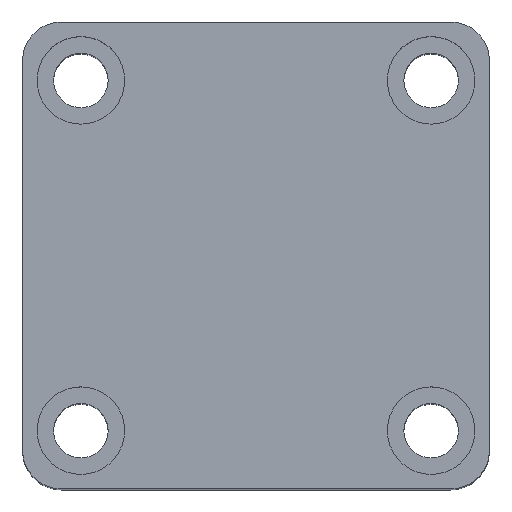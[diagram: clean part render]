
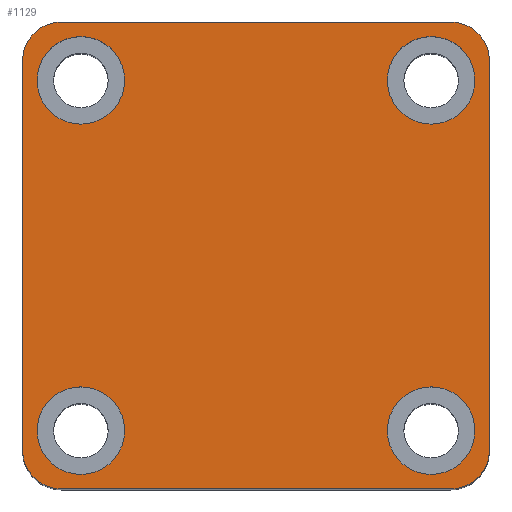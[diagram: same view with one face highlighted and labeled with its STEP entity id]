
A CAD part, top view. The second image highlights one B-rep face of the part: STEP entity #1129.
In plain terms, the highlighted planar face has unit normal (0, 0, 1).
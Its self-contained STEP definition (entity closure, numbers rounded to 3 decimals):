
#281 = ORIENTED_EDGE ( 'NONE', *, *, #2013, .F. ) ;
#282 = ORIENTED_EDGE ( 'NONE', *, *, #1957, .F. ) ;
#283 = ORIENTED_EDGE ( 'NONE', *, *, #2014, .F. ) ;
#284 = ORIENTED_EDGE ( 'NONE', *, *, #1961, .F. ) ;
#285 = ORIENTED_EDGE ( 'NONE', *, *, #2015, .F. ) ;
#286 = ORIENTED_EDGE ( 'NONE', *, *, #1965, .F. ) ;
#287 = ORIENTED_EDGE ( 'NONE', *, *, #2016, .F. ) ;
#288 = ORIENTED_EDGE ( 'NONE', *, *, #1969, .F. ) ;
#289 = ORIENTED_EDGE ( 'NONE', *, *, #2003, .T. ) ;
#290 = ORIENTED_EDGE ( 'NONE', *, *, #2017, .T. ) ;
#291 = ORIENTED_EDGE ( 'NONE', *, *, #2005, .T. ) ;
#292 = ORIENTED_EDGE ( 'NONE', *, *, #2018, .T. ) ;
#293 = ORIENTED_EDGE ( 'NONE', *, *, #2009, .T. ) ;
#294 = ORIENTED_EDGE ( 'NONE', *, *, #2019, .T. ) ;
#295 = ORIENTED_EDGE ( 'NONE', *, *, #1997, .T. ) ;
#296 = ORIENTED_EDGE ( 'NONE', *, *, #1904, .T. ) ;
#484 = FACE_BOUND ( 'NONE', #686, .T. ) ;
#569 = FACE_OUTER_BOUND ( 'NONE', #740, .T. ) ;
#576 = FACE_BOUND ( 'NONE', #751, .T. ) ;
#593 = FACE_BOUND ( 'NONE', #719, .T. ) ;
#597 = FACE_BOUND ( 'NONE', #759, .T. ) ;
#686 = EDGE_LOOP ( 'NONE', ( #287, #288 ) ) ;
#719 = EDGE_LOOP ( 'NONE', ( #285, #286 ) ) ;
#740 = EDGE_LOOP ( 'NONE', ( #289, #290, #291, #292, #293, #294, #295, #296 ) ) ;
#751 = EDGE_LOOP ( 'NONE', ( #281, #282 ) ) ;
#759 = EDGE_LOOP ( 'NONE', ( #283, #284 ) ) ;
#828 = VERTEX_POINT ( 'NONE', #1519 ) ;
#837 = VERTEX_POINT ( 'NONE', #1528 ) ;
#839 = VERTEX_POINT ( 'NONE', #1467 ) ;
#851 = VERTEX_POINT ( 'NONE', #1416 ) ;
#852 = VERTEX_POINT ( 'NONE', #1413 ) ;
#864 = VERTEX_POINT ( 'NONE', #1364 ) ;
#865 = VERTEX_POINT ( 'NONE', #1360 ) ;
#866 = VERTEX_POINT ( 'NONE', #1367 ) ;
#869 = VERTEX_POINT ( 'NONE', #1359 ) ;
#870 = VERTEX_POINT ( 'NONE', #1350 ) ;
#871 = VERTEX_POINT ( 'NONE', #1342 ) ;
#881 = VERTEX_POINT ( 'NONE', #1310 ) ;
#885 = VERTEX_POINT ( 'NONE', #1301 ) ;
#889 = VERTEX_POINT ( 'NONE', #1304 ) ;
#895 = VERTEX_POINT ( 'NONE', #1283 ) ;
#920 = VERTEX_POINT ( 'NONE', #1223 ) ;
#995 = AXIS2_PLACEMENT_3D ( 'NONE', #2443, #2441, #2440 ) ;
#1001 = AXIS2_PLACEMENT_3D ( 'NONE', #2497, #2496, #2495 ) ;
#1016 = AXIS2_PLACEMENT_3D ( 'NONE', #2477, #2476, #2475 ) ;
#1078 = AXIS2_PLACEMENT_3D ( 'NONE', #2481, #2480, #2519 ) ;
#1079 = AXIS2_PLACEMENT_3D ( 'NONE', #2501, #2461, #2460 ) ;
#1080 = AXIS2_PLACEMENT_3D ( 'NONE', #2280, #2269, #2232 ) ;
#1081 = AXIS2_PLACEMENT_3D ( 'NONE', #2294, #2293, #2292 ) ;
#1082 = AXIS2_PLACEMENT_3D ( 'NONE', #2297, #2296, #2295 ) ;
#1084 = AXIS2_PLACEMENT_3D ( 'NONE', #2300, #2340, #2299 ) ;
#1085 = AXIS2_PLACEMENT_3D ( 'NONE', #2303, #2302, #2301 ) ;
#1099 = AXIS2_PLACEMENT_3D ( 'NONE', #2459, #2456, #2455 ) ;
#1129 = ADVANCED_FACE ( 'NONE', ( #576, #597, #593, #484, #569 ), #1561, .T. ) ;
#1223 = CARTESIAN_POINT ( 'NONE',  ( 24., -20., 60. ) ) ;
#1283 = CARTESIAN_POINT ( 'NONE',  ( -13.5, 18., 60. ) ) ;
#1301 = CARTESIAN_POINT ( 'NONE',  ( -22.5, 18., 60. ) ) ;
#1304 = CARTESIAN_POINT ( 'NONE',  ( 22.5, 18., 60. ) ) ;
#1310 = CARTESIAN_POINT ( 'NONE',  ( -22.5, -18., 60. ) ) ;
#1342 = CARTESIAN_POINT ( 'NONE',  ( -24., -20., 60. ) ) ;
#1350 = CARTESIAN_POINT ( 'NONE',  ( -20., -24., 60. ) ) ;
#1359 = CARTESIAN_POINT ( 'NONE',  ( -24., 20., 60. ) ) ;
#1360 = CARTESIAN_POINT ( 'NONE',  ( 20., 24., 60. ) ) ;
#1364 = CARTESIAN_POINT ( 'NONE',  ( -20., 24., 60. ) ) ;
#1367 = CARTESIAN_POINT ( 'NONE',  ( 20., -24., 60. ) ) ;
#1413 = CARTESIAN_POINT ( 'NONE',  ( 13.5, 18., 60. ) ) ;
#1416 = CARTESIAN_POINT ( 'NONE',  ( 13.5, -18., 60. ) ) ;
#1467 = CARTESIAN_POINT ( 'NONE',  ( -13.5, -18., 60. ) ) ;
#1519 = CARTESIAN_POINT ( 'NONE',  ( 22.5, -18., 60. ) ) ;
#1528 = CARTESIAN_POINT ( 'NONE',  ( 24., 20., 60. ) ) ;
#1558 = DIRECTION ( 'NONE',  ( 1., 0., 0. ) ) ;
#1561 = PLANE ( 'NONE',  #1824 ) ;
#1563 = CARTESIAN_POINT ( 'NONE',  ( 0., 0., 60. ) ) ;
#1570 = DIRECTION ( 'NONE',  ( 0., 0., 1. ) ) ;
#1700 = AXIS2_PLACEMENT_3D ( 'NONE', #2721, #2720, #2719 ) ;
#1824 = AXIS2_PLACEMENT_3D ( 'NONE', #1563, #1570, #1558 ) ;
#1904 = EDGE_CURVE ( 'NONE', #837, #865, #2212, .T. ) ;
#1957 = EDGE_CURVE ( 'NONE', #885, #895, #2145, .T. ) ;
#1961 = EDGE_CURVE ( 'NONE', #852, #889, #2136, .T. ) ;
#1965 = EDGE_CURVE ( 'NONE', #881, #839, #2130, .T. ) ;
#1969 = EDGE_CURVE ( 'NONE', #851, #828, #2124, .T. ) ;
#1997 = EDGE_CURVE ( 'NONE', #920, #837, #2083, .T. ) ;
#2003 = EDGE_CURVE ( 'NONE', #865, #864, #2072, .T. ) ;
#2005 = EDGE_CURVE ( 'NONE', #869, #871, #2068, .T. ) ;
#2009 = EDGE_CURVE ( 'NONE', #870, #866, #2060, .T. ) ;
#2013 = EDGE_CURVE ( 'NONE', #895, #885, #2053, .T. ) ;
#2014 = EDGE_CURVE ( 'NONE', #889, #852, #2051, .T. ) ;
#2015 = EDGE_CURVE ( 'NONE', #839, #881, #2050, .T. ) ;
#2016 = EDGE_CURVE ( 'NONE', #828, #851, #2049, .T. ) ;
#2017 = EDGE_CURVE ( 'NONE', #864, #869, #2048, .T. ) ;
#2018 = EDGE_CURVE ( 'NONE', #871, #870, #2047, .T. ) ;
#2019 = EDGE_CURVE ( 'NONE', #866, #920, #2046, .T. ) ;
#2046 = CIRCLE ( 'NONE', #1078, 4. ) ;
#2047 = CIRCLE ( 'NONE', #1079, 4. ) ;
#2048 = CIRCLE ( 'NONE', #1080, 4. ) ;
#2049 = CIRCLE ( 'NONE', #1081, 4.5 ) ;
#2050 = CIRCLE ( 'NONE', #1082, 4.5 ) ;
#2051 = CIRCLE ( 'NONE', #1084, 4.5 ) ;
#2053 = CIRCLE ( 'NONE', #1085, 4.5 ) ;
#2057 = VECTOR ( 'NONE', #2311, 1000. ) ;
#2060 = LINE ( 'NONE', #2313, #2057 ) ;
#2065 = VECTOR ( 'NONE', #2320, 1000. ) ;
#2068 = LINE ( 'NONE', #2321, #2065 ) ;
#2069 = VECTOR ( 'NONE', #2324, 1000. ) ;
#2072 = LINE ( 'NONE', #2325, #2069 ) ;
#2081 = VECTOR ( 'NONE', #2349, 1000. ) ;
#2083 = LINE ( 'NONE', #2351, #2081 ) ;
#2124 = CIRCLE ( 'NONE', #995, 4.5 ) ;
#2130 = CIRCLE ( 'NONE', #1099, 4.5 ) ;
#2136 = CIRCLE ( 'NONE', #1016, 4.5 ) ;
#2145 = CIRCLE ( 'NONE', #1001, 4.5 ) ;
#2212 = CIRCLE ( 'NONE', #1700, 4. ) ;
#2232 = DIRECTION ( 'NONE',  ( 1., 0., 0. ) ) ;
#2269 = DIRECTION ( 'NONE',  ( 0., 0., 1. ) ) ;
#2280 = CARTESIAN_POINT ( 'NONE',  ( -20., 20., 60. ) ) ;
#2292 = DIRECTION ( 'NONE',  ( 1., 0., 0. ) ) ;
#2293 = DIRECTION ( 'NONE',  ( 0., 0., 1. ) ) ;
#2294 = CARTESIAN_POINT ( 'NONE',  ( 18., -18., 60. ) ) ;
#2295 = DIRECTION ( 'NONE',  ( 1., 0., 0. ) ) ;
#2296 = DIRECTION ( 'NONE',  ( 0., 0., 1. ) ) ;
#2297 = CARTESIAN_POINT ( 'NONE',  ( -18., -18., 60. ) ) ;
#2299 = DIRECTION ( 'NONE',  ( 1., 0., 0. ) ) ;
#2300 = CARTESIAN_POINT ( 'NONE',  ( 18., 18., 60. ) ) ;
#2301 = DIRECTION ( 'NONE',  ( 1., 0., 0. ) ) ;
#2302 = DIRECTION ( 'NONE',  ( 0., 0., 1. ) ) ;
#2303 = CARTESIAN_POINT ( 'NONE',  ( -18., 18., 60. ) ) ;
#2311 = DIRECTION ( 'NONE',  ( 1., 0., 0. ) ) ;
#2313 = CARTESIAN_POINT ( 'NONE',  ( -24., -24., 60. ) ) ;
#2320 = DIRECTION ( 'NONE',  ( 0., -1., 0. ) ) ;
#2321 = CARTESIAN_POINT ( 'NONE',  ( -24., 24., 60. ) ) ;
#2324 = DIRECTION ( 'NONE',  ( -1., 0., 0. ) ) ;
#2325 = CARTESIAN_POINT ( 'NONE',  ( -24., 24., 60. ) ) ;
#2340 = DIRECTION ( 'NONE',  ( 0., 0., 1. ) ) ;
#2349 = DIRECTION ( 'NONE',  ( 0., 1., 0. ) ) ;
#2351 = CARTESIAN_POINT ( 'NONE',  ( 24., 24., 60. ) ) ;
#2440 = DIRECTION ( 'NONE',  ( 1., 0., 0. ) ) ;
#2441 = DIRECTION ( 'NONE',  ( 0., 0., 1. ) ) ;
#2443 = CARTESIAN_POINT ( 'NONE',  ( 18., -18., 60. ) ) ;
#2455 = DIRECTION ( 'NONE',  ( 1., 0., 0. ) ) ;
#2456 = DIRECTION ( 'NONE',  ( 0., 0., 1. ) ) ;
#2459 = CARTESIAN_POINT ( 'NONE',  ( -18., -18., 60. ) ) ;
#2460 = DIRECTION ( 'NONE',  ( 1., 0., 0. ) ) ;
#2461 = DIRECTION ( 'NONE',  ( 0., 0., 1. ) ) ;
#2475 = DIRECTION ( 'NONE',  ( 1., 0., 0. ) ) ;
#2476 = DIRECTION ( 'NONE',  ( 0., 0., 1. ) ) ;
#2477 = CARTESIAN_POINT ( 'NONE',  ( 18., 18., 60. ) ) ;
#2480 = DIRECTION ( 'NONE',  ( 0., 0., 1. ) ) ;
#2481 = CARTESIAN_POINT ( 'NONE',  ( 20., -20., 60. ) ) ;
#2495 = DIRECTION ( 'NONE',  ( 1., 0., 0. ) ) ;
#2496 = DIRECTION ( 'NONE',  ( 0., 0., 1. ) ) ;
#2497 = CARTESIAN_POINT ( 'NONE',  ( -18., 18., 60. ) ) ;
#2501 = CARTESIAN_POINT ( 'NONE',  ( -20., -20., 60. ) ) ;
#2519 = DIRECTION ( 'NONE',  ( 1., 0., 0. ) ) ;
#2719 = DIRECTION ( 'NONE',  ( 1., 0., 0. ) ) ;
#2720 = DIRECTION ( 'NONE',  ( 0., 0., 1. ) ) ;
#2721 = CARTESIAN_POINT ( 'NONE',  ( 20., 20., 60. ) ) ;
